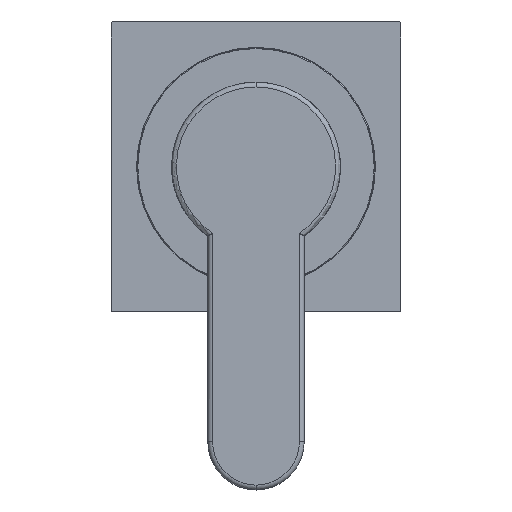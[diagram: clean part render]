
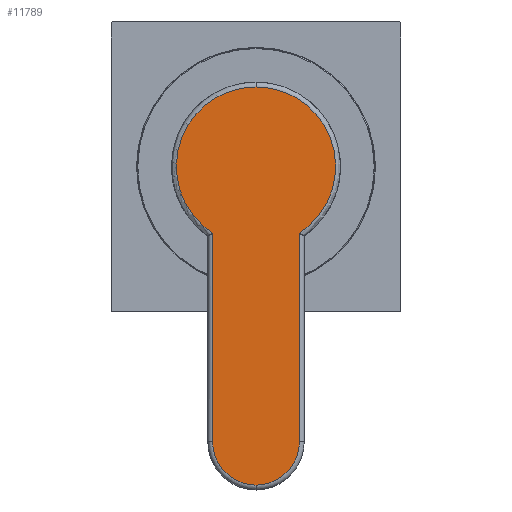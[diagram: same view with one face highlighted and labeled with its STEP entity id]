
A CAD part, top view. The second image highlights one B-rep face of the part: STEP entity #11789.
In plain terms, the highlighted planar face has unit normal (0, 0, 1) as drawn and (0, 0, -1) by its records, which use the part's own axes.
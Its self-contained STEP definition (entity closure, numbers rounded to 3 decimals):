
#68 = DIRECTION ( 'NONE',  ( 0., 0., -1. ) ) ;
#141 = DIRECTION ( 'NONE',  ( 0., 0., -1. ) ) ;
#690 = EDGE_CURVE ( 'NONE', #8682, #14908, #4169, .T. ) ;
#1185 = CARTESIAN_POINT ( 'NONE',  ( 57., 0., -17.7 ) ) ;
#1233 = CARTESIAN_POINT ( 'NONE',  ( 13.829, 9., -17.7 ) ) ;
#2288 = CIRCLE ( 'NONE', #8242, 16.5 ) ;
#2595 = ORIENTED_EDGE ( 'NONE', *, *, #16367, .T. ) ;
#2769 = VERTEX_POINT ( 'NONE', #3053 ) ;
#2778 = FACE_OUTER_BOUND ( 'NONE', #3329, .T. ) ;
#3050 = CIRCLE ( 'NONE', #10675, 9. ) ;
#3053 = CARTESIAN_POINT ( 'NONE',  ( 57., 9., -17.7 ) ) ;
#3125 = EDGE_CURVE ( 'NONE', #6756, #2769, #14528, .T. ) ;
#3329 = EDGE_LOOP ( 'NONE', ( #12880, #10584, #3436, #2595, #4049, #12551 ) ) ;
#3436 = ORIENTED_EDGE ( 'NONE', *, *, #3681, .T. ) ;
#3454 = CARTESIAN_POINT ( 'NONE',  ( 66., 0., -17.7 ) ) ;
#3477 = DIRECTION ( 'NONE',  ( 0., 0., -1. ) ) ;
#3681 = EDGE_CURVE ( 'NONE', #14908, #6386, #14323, .T. ) ;
#4049 = ORIENTED_EDGE ( 'NONE', *, *, #3125, .T. ) ;
#4169 = LINE ( 'NONE', #10718, #4870 ) ;
#4246 = DIRECTION ( 'NONE',  ( -1., 0., 0. ) ) ;
#4870 = VECTOR ( 'NONE', #4246, 1000. ) ;
#5498 = DIRECTION ( 'NONE',  ( 0., 0., -1. ) ) ;
#6007 = AXIS2_PLACEMENT_3D ( 'NONE', #13086, #68, #11644 ) ;
#6166 = CARTESIAN_POINT ( 'NONE',  ( -16.5, 0., -17.7 ) ) ;
#6357 = PLANE ( 'NONE',  #6007 ) ;
#6386 = VERTEX_POINT ( 'NONE', #6166 ) ;
#6700 = AXIS2_PLACEMENT_3D ( 'NONE', #9285, #14491, #14647 ) ;
#6756 = VERTEX_POINT ( 'NONE', #1233 ) ;
#7948 = CARTESIAN_POINT ( 'NONE',  ( 57., 0., -17.7 ) ) ;
#8178 = CARTESIAN_POINT ( 'NONE',  ( 57., -9., -17.7 ) ) ;
#8242 = AXIS2_PLACEMENT_3D ( 'NONE', #11894, #5498, #10687 ) ;
#8682 = VERTEX_POINT ( 'NONE', #8178 ) ;
#9285 = CARTESIAN_POINT ( 'NONE',  ( 0., 0., -17.7 ) ) ;
#9476 = CARTESIAN_POINT ( 'NONE',  ( 13.829, -9., -17.7 ) ) ;
#9731 = VERTEX_POINT ( 'NONE', #3454 ) ;
#10140 = EDGE_CURVE ( 'NONE', #9731, #8682, #11234, .T. ) ;
#10207 = DIRECTION ( 'NONE',  ( -1., 0., 0. ) ) ;
#10584 = ORIENTED_EDGE ( 'NONE', *, *, #690, .T. ) ;
#10675 = AXIS2_PLACEMENT_3D ( 'NONE', #1185, #3477, #10207 ) ;
#10687 = DIRECTION ( 'NONE',  ( -1., 0., 0. ) ) ;
#10718 = CARTESIAN_POINT ( 'NONE',  ( 0., -9., -17.7 ) ) ;
#10765 = CARTESIAN_POINT ( 'NONE',  ( 0., 9., -17.7 ) ) ;
#11234 = CIRCLE ( 'NONE', #12323, 9. ) ;
#11644 = DIRECTION ( 'NONE',  ( -1., 0., 0. ) ) ;
#11789 = ADVANCED_FACE ( 'NONE', ( #2778 ), #6357, .T. ) ;
#11894 = CARTESIAN_POINT ( 'NONE',  ( 0., 0., -17.7 ) ) ;
#12309 = VECTOR ( 'NONE', #15872, 1000. ) ;
#12323 = AXIS2_PLACEMENT_3D ( 'NONE', #7948, #141, #14428 ) ;
#12551 = ORIENTED_EDGE ( 'NONE', *, *, #12839, .T. ) ;
#12839 = EDGE_CURVE ( 'NONE', #2769, #9731, #3050, .T. ) ;
#12880 = ORIENTED_EDGE ( 'NONE', *, *, #10140, .T. ) ;
#13086 = CARTESIAN_POINT ( 'NONE',  ( 0., 0., -17.7 ) ) ;
#14323 = CIRCLE ( 'NONE', #6700, 16.5 ) ;
#14428 = DIRECTION ( 'NONE',  ( -1., 0., 0. ) ) ;
#14491 = DIRECTION ( 'NONE',  ( 0., 0., -1. ) ) ;
#14528 = LINE ( 'NONE', #10765, #12309 ) ;
#14647 = DIRECTION ( 'NONE',  ( -1., 0., 0. ) ) ;
#14908 = VERTEX_POINT ( 'NONE', #9476 ) ;
#15872 = DIRECTION ( 'NONE',  ( 1., 0., 0. ) ) ;
#16367 = EDGE_CURVE ( 'NONE', #6386, #6756, #2288, .T. ) ;
